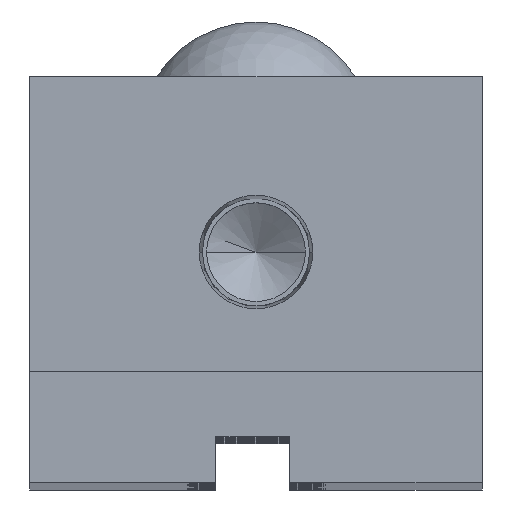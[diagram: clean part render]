
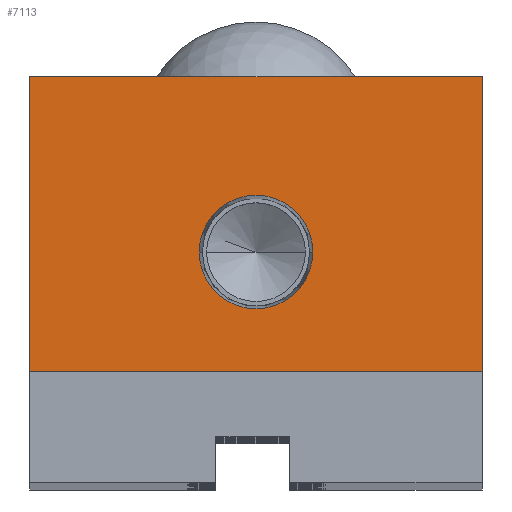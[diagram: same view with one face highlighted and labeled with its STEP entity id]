
A CAD part, top view. The second image highlights one B-rep face of the part: STEP entity #7113.
In plain terms, the highlighted planar face has unit normal (0, 0, 1).
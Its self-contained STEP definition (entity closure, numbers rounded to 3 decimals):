
#111 = AXIS2_PLACEMENT_3D ( 'NONE', #2175, #7773, #2977 ) ;
#269 = EDGE_CURVE ( 'NONE', #10024, #756, #9459, .T. ) ;
#322 = DIRECTION ( 'NONE',  ( 1., 0., 0. ) ) ;
#503 = VECTOR ( 'NONE', #10093, 1000. ) ;
#510 = ORIENTED_EDGE ( 'NONE', *, *, #6076, .T. ) ;
#756 = VERTEX_POINT ( 'NONE', #8273 ) ;
#931 = CARTESIAN_POINT ( 'NONE',  ( 24.5, 0., 0. ) ) ;
#932 = ORIENTED_EDGE ( 'NONE', *, *, #3487, .F. ) ;
#1171 = CARTESIAN_POINT ( 'NONE',  ( 6.154, 13., 0. ) ) ;
#1497 = CARTESIAN_POINT ( 'NONE',  ( 24.5, 32., 0. ) ) ;
#1651 = DIRECTION ( 'NONE',  ( 0., 1., 0. ) ) ;
#1991 = LINE ( 'NONE', #8060, #8125 ) ;
#2175 = CARTESIAN_POINT ( 'NONE',  ( 0., 13., 0. ) ) ;
#2299 = ORIENTED_EDGE ( 'NONE', *, *, #6423, .T. ) ;
#2377 = FACE_OUTER_BOUND ( 'NONE', #7023, .T. ) ;
#2898 = LINE ( 'NONE', #3653, #503 ) ;
#2977 = DIRECTION ( 'NONE',  ( 1., 0., 0. ) ) ;
#3308 = EDGE_LOOP ( 'NONE', ( #3469, #932 ) ) ;
#3326 = AXIS2_PLACEMENT_3D ( 'NONE', #6938, #8468, #8537 ) ;
#3405 = VERTEX_POINT ( 'NONE', #7651 ) ;
#3468 = CARTESIAN_POINT ( 'NONE',  ( -24.5, 32., 0. ) ) ;
#3469 = ORIENTED_EDGE ( 'NONE', *, *, #9011, .F. ) ;
#3487 = EDGE_CURVE ( 'NONE', #9975, #6463, #4871, .T. ) ;
#3653 = CARTESIAN_POINT ( 'NONE',  ( -24.5, 0., 0. ) ) ;
#3881 = VECTOR ( 'NONE', #322, 1000. ) ;
#4247 = CIRCLE ( 'NONE', #10199, 6.154 ) ;
#4292 = DIRECTION ( 'NONE',  ( -1., 0., 0. ) ) ;
#4388 = DIRECTION ( 'NONE',  ( 0., 0., 1. ) ) ;
#4764 = FACE_BOUND ( 'NONE', #3308, .T. ) ;
#4871 = CIRCLE ( 'NONE', #111, 6.154 ) ;
#5427 = CARTESIAN_POINT ( 'NONE',  ( -6.154, 13., 0. ) ) ;
#5790 = ORIENTED_EDGE ( 'NONE', *, *, #269, .T. ) ;
#6076 = EDGE_CURVE ( 'NONE', #756, #3405, #2898, .T. ) ;
#6423 = EDGE_CURVE ( 'NONE', #3405, #7371, #10307, .T. ) ;
#6463 = VERTEX_POINT ( 'NONE', #1171 ) ;
#6938 = CARTESIAN_POINT ( 'NONE',  ( 0., 0., 0. ) ) ;
#7023 = EDGE_LOOP ( 'NONE', ( #510, #2299, #7098, #5790 ) ) ;
#7098 = ORIENTED_EDGE ( 'NONE', *, *, #7874, .T. ) ;
#7113 = ADVANCED_FACE ( 'NONE', ( #4764, #2377 ), #7732, .F. ) ;
#7371 = VERTEX_POINT ( 'NONE', #931 ) ;
#7651 = CARTESIAN_POINT ( 'NONE',  ( -24.5, 0., 0. ) ) ;
#7732 = PLANE ( 'NONE',  #3326 ) ;
#7773 = DIRECTION ( 'NONE',  ( 0., 0., 1. ) ) ;
#7874 = EDGE_CURVE ( 'NONE', #7371, #10024, #1991, .T. ) ;
#8060 = CARTESIAN_POINT ( 'NONE',  ( 24.5, 32., 0. ) ) ;
#8125 = VECTOR ( 'NONE', #1651, 1000. ) ;
#8273 = CARTESIAN_POINT ( 'NONE',  ( -24.5, 32., 0. ) ) ;
#8468 = DIRECTION ( 'NONE',  ( 0., 0., -1. ) ) ;
#8537 = DIRECTION ( 'NONE',  ( -1., 0., 0. ) ) ;
#9011 = EDGE_CURVE ( 'NONE', #6463, #9975, #4247, .T. ) ;
#9205 = CARTESIAN_POINT ( 'NONE',  ( 0., 13., 0. ) ) ;
#9227 = VECTOR ( 'NONE', #4292, 1000. ) ;
#9459 = LINE ( 'NONE', #3468, #9227 ) ;
#9951 = CARTESIAN_POINT ( 'NONE',  ( 24.5, 0., 0. ) ) ;
#9975 = VERTEX_POINT ( 'NONE', #5427 ) ;
#10009 = DIRECTION ( 'NONE',  ( 1., 0., 0. ) ) ;
#10024 = VERTEX_POINT ( 'NONE', #1497 ) ;
#10093 = DIRECTION ( 'NONE',  ( 0., -1., 0. ) ) ;
#10199 = AXIS2_PLACEMENT_3D ( 'NONE', #9205, #4388, #10009 ) ;
#10307 = LINE ( 'NONE', #9951, #3881 ) ;
